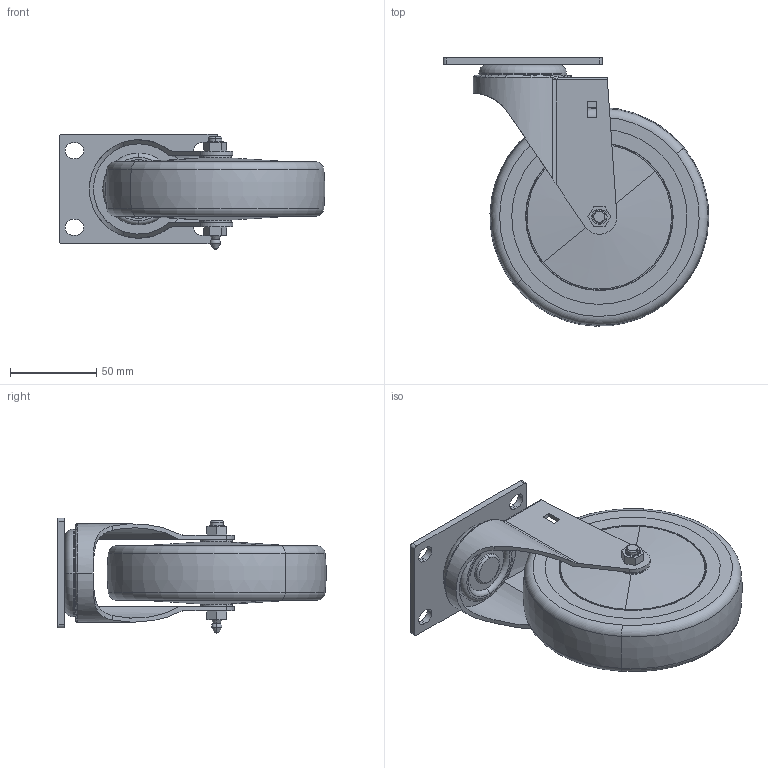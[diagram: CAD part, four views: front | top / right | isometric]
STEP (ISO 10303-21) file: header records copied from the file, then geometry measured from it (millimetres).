
FILE_DESCRIPTION (( 'STEP AP214' ), '1' );
FILE_NAME ('SCC-20S514-PPUB 3D STEP.STEP', '2024-03-08T03:31:55', ( '' ), ( '' ), 'SwSTEP 2.0', 'SolidWorks 2016', '' );
FILE_SCHEMA (( 'AUTOMOTIVE_DESIGN' ));
Length unit declared in the file: inch
Products named in the file (1): SCC-20S514-PPUB 3D STEP
Bounding box: 153.89 x 155.48 x 66.98 mm (x, y, z)
Volume: 539650.4 mm3; surface area: 109268.2 mm2
Topology: 5 solids, 6 shells, 282 faces, 693 edges, 444 vertices
Faces by surface type: plane 99, cylinder 83, bspline 45, torus 43, cone 8, sphere 4
Entity records: 14139 total; most frequent: CARTESIAN_POINT 3840, ORIENTED_EDGE 1370, DIRECTION 1325, EDGE_CURVE 685, AXIS2_PLACEMENT_3D 505, VERTEX_POINT 440, EDGE_LOOP 325, VECTOR 315
